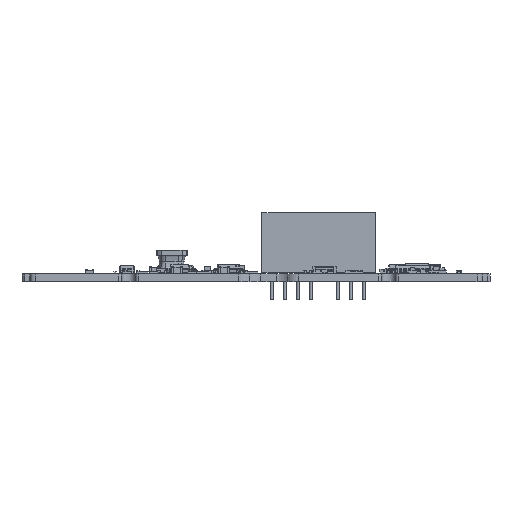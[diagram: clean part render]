
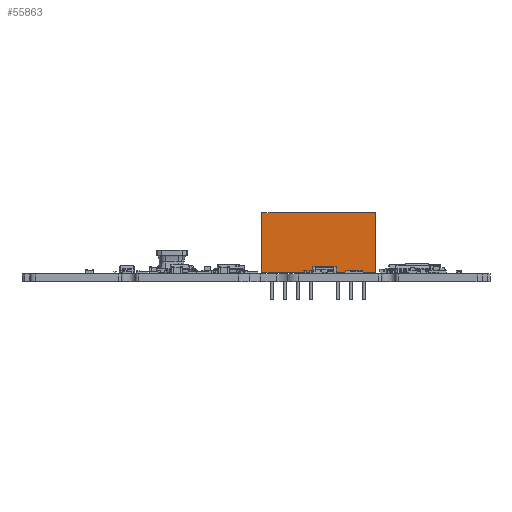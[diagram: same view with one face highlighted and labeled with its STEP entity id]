
A CAD part, front view. The second image highlights one B-rep face of the part: STEP entity #55863.
In plain terms, the highlighted planar face has unit normal (0, -1, 0) as drawn and (1, 0, 0) by its records, which use the part's own axes.
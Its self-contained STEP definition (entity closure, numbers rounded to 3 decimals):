
#55690 = VERTEX_POINT('',#55691);
#55691 = CARTESIAN_POINT('',(3.5,-19.65,0.1));
#55697 = EDGE_CURVE('',#55690,#55698,#55700,.T.);
#55698 = VERTEX_POINT('',#55699);
#55699 = CARTESIAN_POINT('',(3.5,2.15,0.1));
#55700 = LINE('',#55701,#55702);
#55701 = CARTESIAN_POINT('',(3.5,-19.65,0.1));
#55702 = VECTOR('',#55703,1.);
#55703 = DIRECTION('',(0.,1.,0.));
#55819 = EDGE_CURVE('',#55698,#55820,#55822,.T.);
#55820 = VERTEX_POINT('',#55821);
#55821 = CARTESIAN_POINT('',(3.5,2.15,11.7));
#55822 = LINE('',#55823,#55824);
#55823 = CARTESIAN_POINT('',(3.5,2.15,0.1));
#55824 = VECTOR('',#55825,1.);
#55825 = DIRECTION('',(0.,0.,1.));
#55845 = VERTEX_POINT('',#55846);
#55846 = CARTESIAN_POINT('',(3.5,-19.65,11.7));
#55852 = EDGE_CURVE('',#55690,#55845,#55853,.T.);
#55853 = LINE('',#55854,#55855);
#55854 = CARTESIAN_POINT('',(3.5,-19.65,0.1));
#55855 = VECTOR('',#55856,1.);
#55856 = DIRECTION('',(0.,0.,1.));
#55863 = ADVANCED_FACE('',(#55864),#55875,.F.);
#55864 = FACE_BOUND('',#55865,.F.);
#55865 = EDGE_LOOP('',(#55866,#55867,#55873,#55874));
#55866 = ORIENTED_EDGE('',*,*,#55852,.T.);
#55867 = ORIENTED_EDGE('',*,*,#55868,.T.);
#55868 = EDGE_CURVE('',#55845,#55820,#55869,.T.);
#55869 = LINE('',#55870,#55871);
#55870 = CARTESIAN_POINT('',(3.5,-19.65,11.7));
#55871 = VECTOR('',#55872,1.);
#55872 = DIRECTION('',(0.,1.,0.));
#55873 = ORIENTED_EDGE('',*,*,#55819,.F.);
#55874 = ORIENTED_EDGE('',*,*,#55697,.F.);
#55875 = PLANE('',#55876);
#55876 = AXIS2_PLACEMENT_3D('',#55877,#55878,#55879);
#55877 = CARTESIAN_POINT('',(3.5,-19.65,0.1));
#55878 = DIRECTION('',(-1.,0.,0.));
#55879 = DIRECTION('',(0.,1.,0.));
